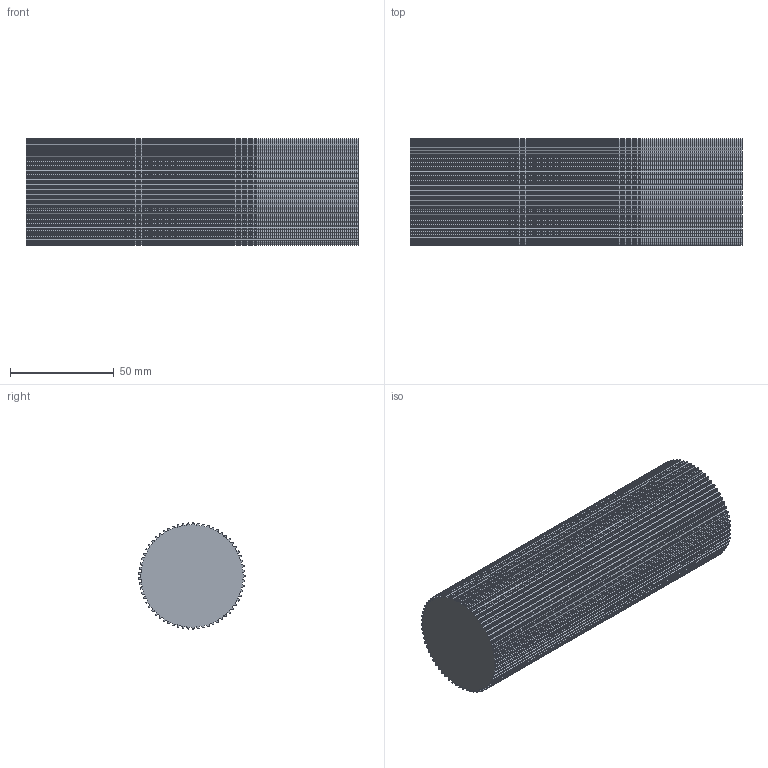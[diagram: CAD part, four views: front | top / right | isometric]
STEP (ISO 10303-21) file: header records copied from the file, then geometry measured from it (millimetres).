
FILE_DESCRIPTION( ( 'STEP AP214' ), '1' );
FILE_NAME( 'C:/Users/StangenbergN/Documents/CAD_Step/1/16096500.stp', '2019-07-25T19:42:41', ( '' ), ( '' ), ' ', 'PARTsolutions', ' ' );
FILE_SCHEMA( ( 'AUTOMOTIVE_DESIGN { 1 0 10303 214 1 1 1 1 }' ) );
Length unit declared in the file: millimetre
Products named in the file (1): _16096500
Bounding box: 160 x 51.2 x 51.22 mm (x, y, z)
Volume: 314427.5 mm3; surface area: 42017.4 mm2
Topology: 1 solids, 1 shells, 522 faces, 1560 edges, 1040 vertices
Faces by surface type: cylinder 325, plane 197
Entity records: 22026 total; most frequent: DIRECTION 3256, CARTESIAN_POINT 3123, ORIENTED_EDGE 3120, EDGE_CURVE 1560, AXIS2_PLACEMENT_3D 1173, VERTEX_POINT 1040, LINE 910, VECTOR 910
